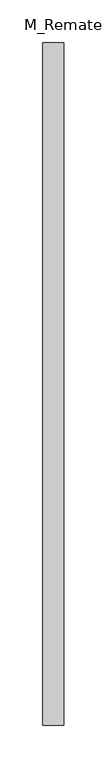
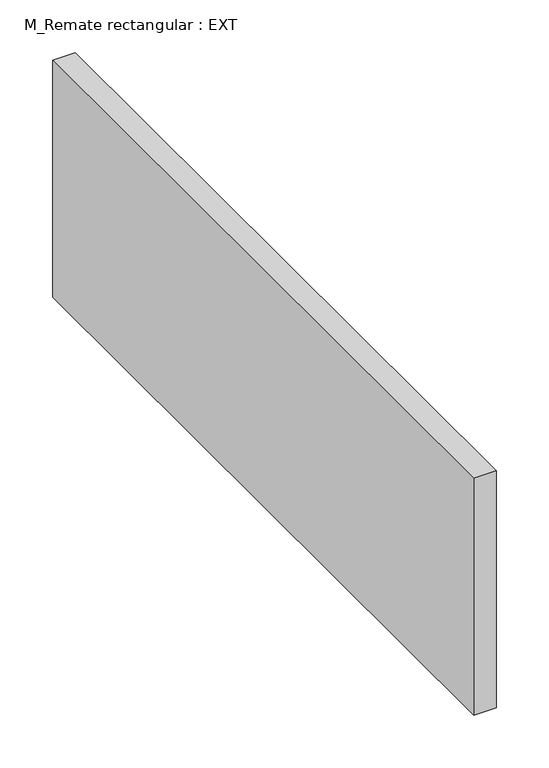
"""IFC4 building model written with IfcOpenShell, lengths in millimetres: duct fitting geometry, M_Remate rectangular : EXT."""

import ifcopenshell
import ifcopenshell.guid

model = None  # the IFC model being written
_history = None  # IfcOwnerHistory: only IFC2X3 demands one
_inside = {}  # id of a spatial element -> (the spatial element, [elements in it])
_under = {}  # id of a project, library or spatial element -> (it, [spatial elements below it])
_declared = {}  # id of a project -> (the project, [libraries it declares])
_typed = {}  # id of a type object -> (the type object, [elements of that type])
_made_of = {}  # id of a material, layer set ... -> (it, [elements and type objects made of it])


def new_model(schema):
    """Start an empty IFC model of exactly this schema.

    Asked for "IFC4X3", IfcOpenShell would pick the latest addendum, in which some entities
    have other attributes; the version numbers below select the first issue.
    IFC2X3 requires an IfcOwnerHistory on every rooted entity: one is made here for all.
    """
    global model, _history
    if schema == "IFC4X3":
        model = ifcopenshell.file(schema_version=(4, 3, 0, 0))
    else:
        model = ifcopenshell.file(schema=schema)
    _inside.clear()
    _under.clear()
    _declared.clear()
    _typed.clear()
    _made_of.clear()
    _history = None
    if model.schema == "IFC2X3":
        org = make("IfcOrganization", Name="unknown")
        user = make(
            "IfcPersonAndOrganization",
            ThePerson=make("IfcPerson", FamilyName="unknown"),
            TheOrganization=org,
        )
        app = make(
            "IfcApplication",
            ApplicationDeveloper=org,
            Version="unknown",
            ApplicationFullName="unknown",
            ApplicationIdentifier="unknown",
        )
        _history = make(
            "IfcOwnerHistory",
            OwningUser=user,
            OwningApplication=app,
            ChangeAction="ADDED",
            CreationDate=0,
        )
    return model


def make(cls, **values):
    """One entity of the class cls with the attributes given. An attribute that is None is left unset."""
    return model.create_entity(
        cls, **{name: value for name, value in values.items() if value is not None}
    )


def rooted(cls, **values):
    """An entity with a GlobalId (a new one), such as an element, a storey or a relation."""
    return make(cls, GlobalId=ifcopenshell.guid.new(), OwnerHistory=_history, **values)


def si_unit(unit_type, name, prefix=None):
    """IfcSIUnit, for example si_unit("LENGTHUNIT", "METRE", prefix="MILLI")."""
    return make("IfcSIUnit", UnitType=unit_type, Prefix=prefix, Name=name)


def assignment(units):
    """IfcUnitAssignment: the units of a project."""
    return None if units is None else make("IfcUnitAssignment", Units=units)


def point(xyz):
    """IfcCartesianPoint."""
    return None if xyz is None else make("IfcCartesianPoint", Coordinates=xyz)


def direction(xyz):
    """IfcDirection."""
    return None if xyz is None else make("IfcDirection", DirectionRatios=xyz)


def frame(location, z_axis=None, x_axis=None):
    """IfcAxis2Placement3D, a coordinate frame: its origin and axes. An axis left out is left unset."""
    return make(
        "IfcAxis2Placement3D",
        Location=point(location),
        Axis=direction(z_axis),
        RefDirection=direction(x_axis),
    )


def origin():
    """The frame at (0, 0, 0) with its axes left unset."""
    return frame((0.0, 0.0, 0.0))


def place(relative_to, where):
    """IfcLocalPlacement: puts the frame where relative to a parent placement (None: the world)."""
    return make(
        "IfcLocalPlacement", PlacementRelTo=relative_to, RelativePlacement=where
    )


def context(
    kind, dimensions, precision=None, world=None, true_north=None, identifier=None
):
    """IfcGeometricRepresentationContext, for example the 3D "Model" context."""
    return make(
        "IfcGeometricRepresentationContext",
        ContextIdentifier=identifier,
        ContextType=kind,
        CoordinateSpaceDimension=dimensions,
        Precision=precision,
        WorldCoordinateSystem=world,
        TrueNorth=true_north,
    )


def project(units=None, contexts=None):
    """IfcProject with its units and contexts."""
    return rooted(
        "IfcProject",
        Name="project",
        RepresentationContexts=contexts,
        UnitsInContext=assignment(units),
    )


def spatial(cls, under=None, at=None, **own):
    """A site, building, storey or space (cls), placed at a placement, below another one or the project."""
    s = rooted(cls, ObjectPlacement=at, **own)
    if under is not None:
        _under.setdefault(under.id(), (under, []))[1].append(s)
    return s


def polyline(points):
    """IfcPolyline through the points."""
    return make("IfcPolyline", Points=[point(p) for p in points])


def outline(outer, holes=None, kind="AREA"):
    """IfcArbitraryClosedProfileDef: a profile drawn as a closed curve; with holes, ...WithVoids."""
    if holes is None:
        return make("IfcArbitraryClosedProfileDef", ProfileType=kind, OuterCurve=outer)
    return make(
        "IfcArbitraryProfileDefWithVoids",
        ProfileType=kind,
        OuterCurve=outer,
        InnerCurves=holes,
    )


def extrude(swept, where, along, depth):
    """IfcExtrudedAreaSolid: the profile swept, set in the frame where, extruded along a direction by depth."""
    return make(
        "IfcExtrudedAreaSolid",
        SweptArea=swept,
        Position=where,
        ExtrudedDirection=direction(along),
        Depth=depth,
    )


def shape(context_of_items, identifier, shape_type, items):
    """IfcShapeRepresentation: the items that make up one representation, for example the "Body"."""
    return make(
        "IfcShapeRepresentation",
        ContextOfItems=context_of_items,
        RepresentationIdentifier=identifier,
        RepresentationType=shape_type,
        Items=items,
    )


def source(mapping_origin, context_of_items, identifier, shape_type, items):
    """IfcRepresentationMap: a shape defined once, which mapped items show again and again."""
    return make(
        "IfcRepresentationMap",
        MappingOrigin=mapping_origin,
        MappedRepresentation=shape(context_of_items, identifier, shape_type, items),
    )


def transform(
    local_origin,
    x_axis=None,
    y_axis=None,
    z_axis=None,
    scale=None,
    scale2=None,
    scale3=None,
    uniform=True,
):
    """IfcCartesianTransformationOperator3D, or its non-uniform kind. x_axis, y_axis, z_axis: its Axis1, 2, 3."""
    if uniform:
        return make(
            "IfcCartesianTransformationOperator3D",
            Axis1=direction(x_axis),
            Axis2=direction(y_axis),
            LocalOrigin=point(local_origin),
            Scale=scale,
            Axis3=direction(z_axis),
        )
    return make(
        "IfcCartesianTransformationOperator3DnonUniform",
        Axis1=direction(x_axis),
        Axis2=direction(y_axis),
        LocalOrigin=point(local_origin),
        Scale=scale,
        Axis3=direction(z_axis),
        Scale2=scale2,
        Scale3=scale3,
    )


def mapped(mapping_source, mapping_target):
    """IfcMappedItem: shows the shape of a source again, moved by a transform."""
    return make(
        "IfcMappedItem", MappingSource=mapping_source, MappingTarget=mapping_target
    )


def made_of(thing, what):
    """Note that an element or type object is made of a material, layer set ...; save() writes the relation."""
    if what is not None:
        _made_of.setdefault(what.id(), (what, []))[1].append(thing)
    return thing


def element(
    cls,
    number,
    at=None,
    inside=None,
    cuts=None,
    type_object=None,
    material=None,
    context=None,
    identifier="Body",
    shape_type=None,
    held_by="IfcProductDefinitionShape",
    body=None,
    shapes=None,
    **own,
):
    """One element of the class cls, such as IfcWall. Its Tag is "e" and its number.

    at: its placement. inside: the storey or other place that contains it. cuts: it is an
    opening in that element (IfcRelVoidsElement). A single representation is given by context,
    identifier, shape_type and body (its items); several are given by shapes. held_by: the class
    of the entity that holds the representations. save() writes the other relations.
    """
    e = rooted(cls, Tag="e%d" % number, ObjectPlacement=at, **own)
    if body is not None:
        shapes = [shape(context, identifier, shape_type, body)]
    if shapes is not None:
        e.Representation = make(held_by, Representations=shapes)
    if inside is not None:
        _inside.setdefault(inside.id(), (inside, []))[1].append(e)
    if cuts is not None:
        rooted(
            "IfcRelVoidsElement", RelatingBuildingElement=cuts, RelatedOpeningElement=e
        )
    if type_object is not None:
        _typed.setdefault(type_object.id(), (type_object, []))[1].append(e)
    return made_of(e, material)


def aggregate(whole, parts):
    """IfcRelAggregates: a whole, such as a stair, and the parts it consists of."""
    return rooted("IfcRelAggregates", RelatingObject=whole, RelatedObjects=parts)


def save(model, path):
    """Write the relations noted so far, then the file.

    IfcRelAggregates (storeys below a building ...), IfcRelContainedInSpatialStructure (elements
    in a storey), IfcRelDefinesByType, IfcRelAssociatesMaterial and IfcRelDeclares: one each for
    every whole, place, type object, material and project.
    """
    for whole, parts in _under.values():
        aggregate(whole, parts)
    for where, things in _inside.values():
        rooted(
            "IfcRelContainedInSpatialStructure",
            RelatedElements=things,
            RelatingStructure=where,
        )
    for kind, things in _typed.values():
        rooted("IfcRelDefinesByType", RelatedObjects=things, RelatingType=kind)
    for what, things in _made_of.values():
        rooted("IfcRelAssociatesMaterial", RelatedObjects=things, RelatingMaterial=what)
    for by, libraries in _declared.values():
        rooted("IfcRelDeclares", RelatingContext=by, RelatedDefinitions=libraries)
    model.write(path)


def m_remate_rectangular_ext_55e19840(model_context):
    return source(origin(), model_context, "Body", "SweptSolid", [
        extrude(outline(polyline([(0.0, -400.0), (0.0, 400.0), (25.0, 400.0), (25.0, -400.0), (0.0, -400.0)])), frame((0.0, 0.0, -137.5), z_axis=(0.0, 0.0, 1.0), x_axis=(1.0, 0.0, 0.0)), (0.0, 0.0, 1.0), 275.0),
    ])


if __name__ == "__main__":
    model = new_model("IFC4")
    model_context = context("Model", 3, world=origin())
    ifc_project = project(units=[si_unit("LENGTHUNIT", "METRE", prefix="MILLI")], contexts=[model_context])
    site = spatial("IfcSite", under=ifc_project)
    building = spatial("IfcBuilding", under=site)
    placement = place(None, origin())
    m_remate_rectangular_ext_shape = m_remate_rectangular_ext_55e19840(model_context)
    element("IfcDuctFitting", 1, ObjectType="M_Remate rectangular : EXT", at=placement, inside=building, context=model_context, shape_type="MappedRepresentation", body=[
        mapped(m_remate_rectangular_ext_shape, transform((0.0, 0.0, 0.0), x_axis=(1.0, 0.0, 0.0), y_axis=(0.0, 1.0, 0.0), z_axis=(0.0, 0.0, 1.0))),
    ])
    save(model, "model.ifc")
